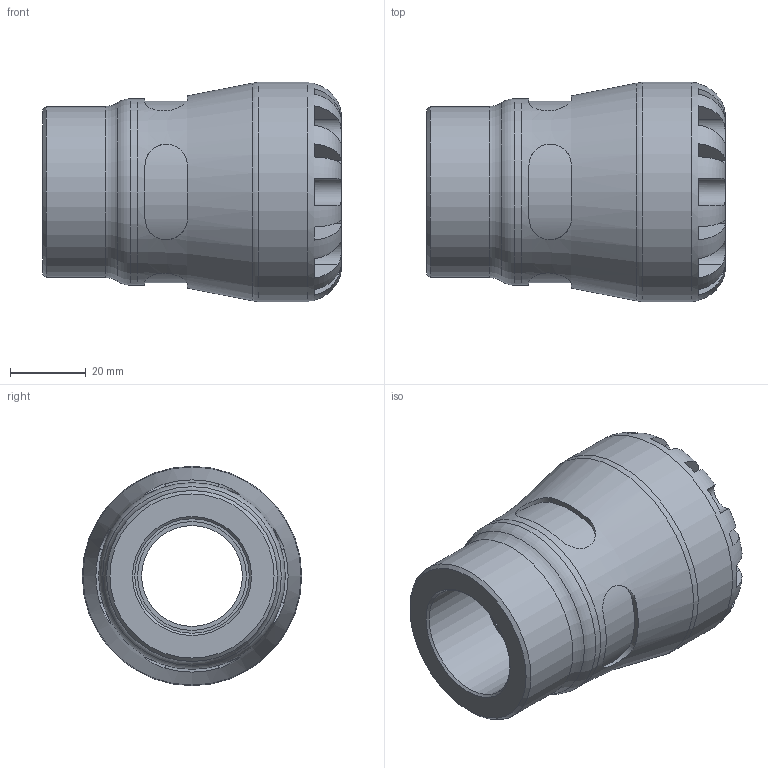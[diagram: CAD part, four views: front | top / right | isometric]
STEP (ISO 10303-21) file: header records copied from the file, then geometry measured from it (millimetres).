
FILE_DESCRIPTION(/* description */ ('PLASSON FEMALE ADAPTOR 32X1" SERIES 1'),/* implementation_level */ '2;1');
FILE_NAME(/* name */ 'C:\Dropbox\KIMPROJECTS-Inventor\99-16-3568-Processing\1003\100300032010_190300032010.ipt.step',/* time_stamp */ '2017-01-22T09:49:14+02:00',/* author */ ('KIM'),/* organization */ (''),/* preprocessor_version */ 'ST-DEVELOPER v15.6',/* originating_system */ 'Autodesk Inventor 2015',/* authorisation */ '');
FILE_SCHEMA (('AUTOMOTIVE_DESIGN { 1 0 10303 214 3 1 1 }'));
Length unit declared in the file: millimetre
Products named in the file (1): 100300032010_190300032010
Bounding box: 79 x 58 x 58 mm (x, y, z)
Volume: 100434.5 mm3; surface area: 24822.7 mm2
Topology: 1 solids, 1 shells, 104 faces, 255 edges, 159 vertices
Faces by surface type: plane 61, cylinder 35, torus 5, cone 3
Full cylindrical faces by diameter (mm): 26.667 x1, 28.776 x1, 30.291 x1, 32 x1, 45.24 x1, 49.3 x1, 58 x1
Entity records: 3884 total; most frequent: CARTESIAN_POINT 1445, DIRECTION 472, ORIENTED_EDGE 470, EDGE_CURVE 235, AXIS2_PLACEMENT_3D 196, VERTEX_POINT 155, EDGE_LOOP 128, STYLED_ITEM 105
